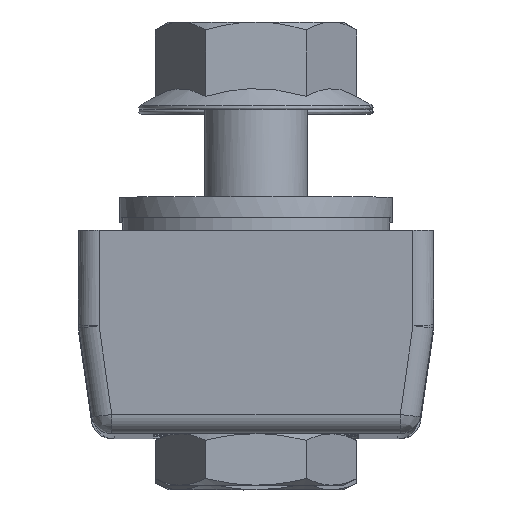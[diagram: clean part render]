
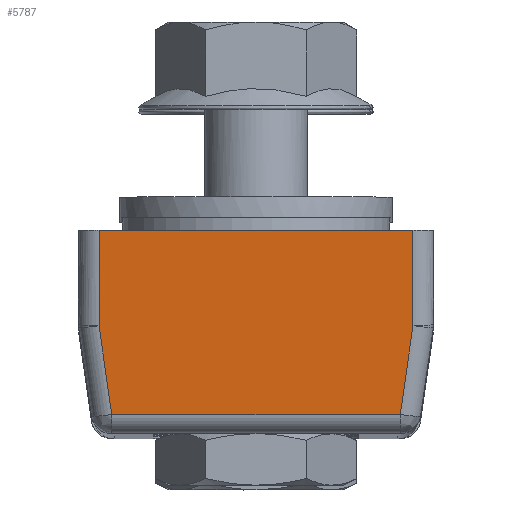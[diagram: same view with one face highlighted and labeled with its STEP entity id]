
A CAD part, top view. The second image highlights one B-rep face of the part: STEP entity #5787.
In plain terms, the highlighted free-form (B-spline) face has degree [1, 1] with [2, 2] control points.
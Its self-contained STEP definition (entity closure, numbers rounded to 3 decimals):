
#5643=CARTESIAN_POINT('V128',(-14.018,
   -17.651,279.64));
#5644=VERTEX_POINT('V128',#5643);
#5658=CARTESIAN_POINT('V123',(-15.25,-9.027,
   280.295));
#5659=VERTEX_POINT('V123',#5658);
#5660=CARTESIAN_POINT('E200',(-14.018,
   -17.651,279.64));
#5661=CARTESIAN_POINT('E200',(-15.25,-9.027,
   280.295));
#5662=B_SPLINE_CURVE_WITH_KNOTS('E200',1,(#5660,#5661),
   .POLYLINE_FORM.,.F.,.U.,(2,2),(2.0,4.8),
   .UNSPECIFIED.);
#5663=EDGE_CURVE('E200',#5644,#5659,#5662,.T.);
#5732=CARTESIAN_POINT('V124',(-15.25,0.25,
   281.0));
#5733=VERTEX_POINT('V124',#5732);
#5734=CARTESIAN_POINT('E195',(-15.25,-9.027,
   280.295));
#5735=CARTESIAN_POINT('E195',(-15.25,0.25,
   281.0));
#5736=B_SPLINE_CURVE_WITH_KNOTS('E195',1,(#5734,#5735),
   .POLYLINE_FORM.,.F.,.U.,(2,2),(2.0,4.961),
   .UNSPECIFIED.);
#5737=EDGE_CURVE('E195',#5659,#5733,#5736,.T.);
#5752=CARTESIAN_POINT('F80',(30.0,5.25,
   281.38));
#5753=CARTESIAN_POINT('F80',(30.0,-24.5,
   279.12));
#5754=CARTESIAN_POINT('F80',(-30.0,5.25,
   281.38));
#5755=CARTESIAN_POINT('F80',(-30.0,-24.5,
   279.12));
#5756=B_SPLINE_SURFACE_WITH_KNOTS('F80',1,1,((#5752,#5754),(#5753,
   #5755)),.PLANE_SURF.,.F.,.F.,.U.,(2,2),(2,2),(0.0,1.0),(0.0,
   2.011),.UNSPECIFIED.);
#5757=ORIENTED_EDGE('E200',*,*,#5663,.F.);
#5758=CARTESIAN_POINT('V127',(14.018,-17.651,
   279.64));
#5759=VERTEX_POINT('V127',#5758);
#5760=CARTESIAN_POINT('E199',(14.018,-17.651,
   279.64));
#5761=CARTESIAN_POINT('E199',(-14.018,
   -17.651,279.64));
#5762=B_SPLINE_CURVE_WITH_KNOTS('E199',1,(#5760,#5761),
   .POLYLINE_FORM.,.F.,.U.,(2,2),(2.0,11.377),
   .UNSPECIFIED.);
#5763=EDGE_CURVE('E199',#5759,#5644,#5762,.T.);
#5764=ORIENTED_EDGE('E199',*,*,#5763,.F.);
#5765=CARTESIAN_POINT('V126',(15.25,-9.027,
   280.295));
#5766=VERTEX_POINT('V126',#5765);
#5767=CARTESIAN_POINT('E198',(15.25,-9.027,
   280.295));
#5768=CARTESIAN_POINT('E198',(14.018,-17.651,
   279.64));
#5769=B_SPLINE_CURVE_WITH_KNOTS('E198',1,(#5767,#5768),
   .POLYLINE_FORM.,.F.,.U.,(2,2),(2.0,4.8),
   .UNSPECIFIED.);
#5770=EDGE_CURVE('E198',#5766,#5759,#5769,.T.);
#5771=ORIENTED_EDGE('E198',*,*,#5770,.F.);
#5772=CARTESIAN_POINT('V125',(15.25,0.25,
   281.0));
#5773=VERTEX_POINT('V125',#5772);
#5774=CARTESIAN_POINT('E197',(15.25,0.25,
   281.0));
#5775=CARTESIAN_POINT('E197',(15.25,-9.027,
   280.295));
#5776=B_SPLINE_CURVE_WITH_KNOTS('E197',1,(#5774,#5775),
   .POLYLINE_FORM.,.F.,.U.,(2,2),(2.0,4.961),
   .UNSPECIFIED.);
#5777=EDGE_CURVE('E197',#5773,#5766,#5776,.T.);
#5778=ORIENTED_EDGE('E197',*,*,#5777,.F.);
#5779=CARTESIAN_POINT('E196',(-15.25,0.25,
   281.0));
#5780=CARTESIAN_POINT('E196',(15.25,0.25,
   281.0));
#5781=B_SPLINE_CURVE_WITH_KNOTS('E196',1,(#5779,#5780),
   .POLYLINE_FORM.,.F.,.U.,(2,2),(0.4,
   6.5),.UNSPECIFIED.);
#5782=EDGE_CURVE('E196',#5733,#5773,#5781,.T.);
#5783=ORIENTED_EDGE('E196',*,*,#5782,.F.);
#5784=ORIENTED_EDGE('E195',*,*,#5737,.F.);
#5785=EDGE_LOOP('F80',(#5757,#5764,#5771,#5778,#5783,#5784));
#5786=FACE_OUTER_BOUND('F80',#5785,.T.);
#5787=ADVANCED_FACE('F80',(#5786),#5756,.F.);
